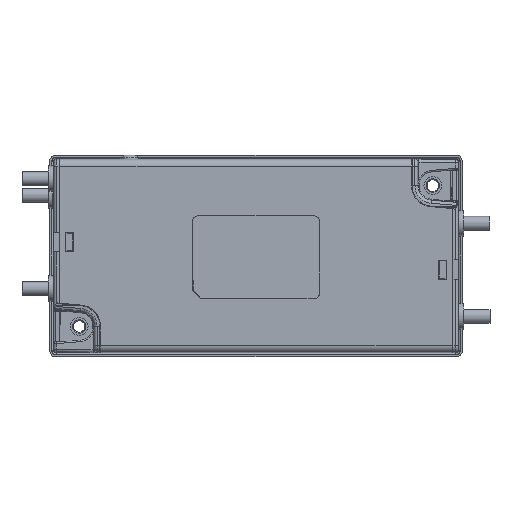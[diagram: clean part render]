
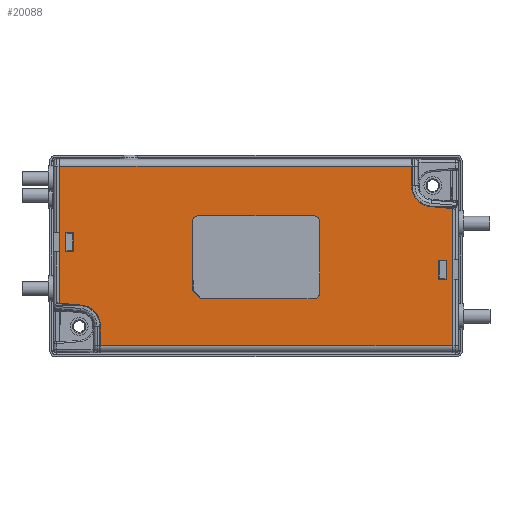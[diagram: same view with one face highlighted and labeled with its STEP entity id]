
A CAD part, top view. The second image highlights one B-rep face of the part: STEP entity #20088.
In plain terms, the highlighted planar face has unit normal (0, 0, 1).
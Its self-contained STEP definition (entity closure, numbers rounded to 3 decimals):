
#919=FACE_BOUND('',#5920,.T.);
#920=FACE_BOUND('',#5921,.T.);
#921=FACE_BOUND('',#5922,.T.);
#1001=LINE('',#29204,#2686);
#1005=LINE('',#29216,#2690);
#1009=LINE('',#29227,#2694);
#1013=LINE('',#29235,#2698);
#1016=LINE('',#29239,#2701);
#1017=LINE('',#29244,#2702);
#1018=LINE('',#29246,#2703);
#1019=LINE('',#29250,#2704);
#1020=LINE('',#29252,#2705);
#1021=LINE('',#29254,#2706);
#1022=LINE('',#29256,#2707);
#1023=LINE('',#29258,#2708);
#1024=LINE('',#29262,#2709);
#1025=LINE('',#29264,#2710);
#1026=LINE('',#29265,#2711);
#1027=LINE('',#29268,#2712);
#1028=LINE('',#29270,#2713);
#1029=LINE('',#29272,#2714);
#1030=LINE('',#29273,#2715);
#1031=LINE('',#29276,#2716);
#1032=LINE('',#29278,#2717);
#1033=LINE('',#29280,#2718);
#1034=LINE('',#29281,#2719);
#1035=LINE('',#29282,#2720);
#1036=LINE('',#29283,#2721);
#2686=VECTOR('',#23374,10.);
#2690=VECTOR('',#23386,10.);
#2694=VECTOR('',#23398,10.);
#2698=VECTOR('',#23404,10.);
#2701=VECTOR('',#23409,10.);
#2702=VECTOR('',#23414,10.);
#2703=VECTOR('',#23415,10.);
#2704=VECTOR('',#23418,10.);
#2705=VECTOR('',#23419,10.);
#2706=VECTOR('',#23420,10.);
#2707=VECTOR('',#23421,10.);
#2708=VECTOR('',#23422,10.);
#2709=VECTOR('',#23425,10.);
#2710=VECTOR('',#23426,10.);
#2711=VECTOR('',#23427,10.);
#2712=VECTOR('',#23428,10.);
#2713=VECTOR('',#23429,10.);
#2714=VECTOR('',#23430,10.);
#2715=VECTOR('',#23431,10.);
#2716=VECTOR('',#23432,10.);
#2717=VECTOR('',#23433,10.);
#2718=VECTOR('',#23434,10.);
#2719=VECTOR('',#23435,10.);
#2720=VECTOR('',#23436,10.);
#2721=VECTOR('',#23437,10.);
#4755=FACE_OUTER_BOUND('',#5919,.T.);
#5919=EDGE_LOOP('',(#12565,#12566,#12567,#12568,#12569,#12570,#12571,#12572,
#12573,#12574,#12575,#12576));
#5920=EDGE_LOOP('',(#12577,#12578,#12579,#12580));
#5921=EDGE_LOOP('',(#12581,#12582,#12583,#12584));
#5922=EDGE_LOOP('',(#12585,#12586,#12587,#12588,#12589,#12590,#12591,#12592,
#12593,#12594));
#7139=CIRCLE('',#21273,2.);
#7141=CIRCLE('',#21277,2.);
#7143=CIRCLE('',#21281,2.);
#7144=CIRCLE('',#21287,7.5);
#7145=CIRCLE('',#21288,7.5);
#7755=VERTEX_POINT('',#29181);
#7759=VERTEX_POINT('',#29188);
#7760=VERTEX_POINT('',#29190);
#7763=VERTEX_POINT('',#29197);
#7764=VERTEX_POINT('',#29199);
#7765=VERTEX_POINT('',#29203);
#7768=VERTEX_POINT('',#29211);
#7769=VERTEX_POINT('',#29215);
#7772=VERTEX_POINT('',#29223);
#7775=VERTEX_POINT('',#29234);
#7776=VERTEX_POINT('',#29242);
#7777=VERTEX_POINT('',#29243);
#7778=VERTEX_POINT('',#29245);
#7779=VERTEX_POINT('',#29247);
#7780=VERTEX_POINT('',#29249);
#7781=VERTEX_POINT('',#29251);
#7782=VERTEX_POINT('',#29253);
#7783=VERTEX_POINT('',#29255);
#7784=VERTEX_POINT('',#29257);
#7785=VERTEX_POINT('',#29259);
#7786=VERTEX_POINT('',#29261);
#7787=VERTEX_POINT('',#29263);
#7788=VERTEX_POINT('',#29266);
#7789=VERTEX_POINT('',#29267);
#7790=VERTEX_POINT('',#29269);
#7791=VERTEX_POINT('',#29271);
#7792=VERTEX_POINT('',#29274);
#7793=VERTEX_POINT('',#29275);
#7794=VERTEX_POINT('',#29277);
#7795=VERTEX_POINT('',#29279);
#9579=EDGE_CURVE('',#7764,#7763,#7139,.T.);
#9581=EDGE_CURVE('',#7765,#7764,#1001,.T.);
#9585=EDGE_CURVE('',#7768,#7765,#7141,.T.);
#9587=EDGE_CURVE('',#7769,#7768,#1005,.T.);
#9591=EDGE_CURVE('',#7772,#7769,#7143,.T.);
#9593=EDGE_CURVE('',#7755,#7772,#1009,.T.);
#9597=EDGE_CURVE('',#7775,#7759,#1013,.T.);
#9600=EDGE_CURVE('',#7763,#7775,#1016,.T.);
#9601=EDGE_CURVE('',#7776,#7777,#1017,.T.);
#9602=EDGE_CURVE('',#7776,#7778,#1018,.T.);
#9603=EDGE_CURVE('',#7778,#7779,#7144,.T.);
#9604=EDGE_CURVE('',#7779,#7780,#1019,.T.);
#9605=EDGE_CURVE('',#7780,#7781,#1020,.T.);
#9606=EDGE_CURVE('',#7782,#7781,#1021,.T.);
#9607=EDGE_CURVE('',#7783,#7782,#1022,.T.);
#9608=EDGE_CURVE('',#7783,#7784,#1023,.T.);
#9609=EDGE_CURVE('',#7784,#7785,#7145,.T.);
#9610=EDGE_CURVE('',#7785,#7786,#1024,.T.);
#9611=EDGE_CURVE('',#7786,#7787,#1025,.T.);
#9612=EDGE_CURVE('',#7777,#7787,#1026,.T.);
#9613=EDGE_CURVE('',#7788,#7789,#1027,.T.);
#9614=EDGE_CURVE('',#7789,#7790,#1028,.T.);
#9615=EDGE_CURVE('',#7790,#7791,#1029,.T.);
#9616=EDGE_CURVE('',#7791,#7788,#1030,.T.);
#9617=EDGE_CURVE('',#7792,#7793,#1031,.T.);
#9618=EDGE_CURVE('',#7793,#7794,#1032,.T.);
#9619=EDGE_CURVE('',#7794,#7795,#1033,.T.);
#9620=EDGE_CURVE('',#7795,#7792,#1034,.T.);
#9621=EDGE_CURVE('',#7759,#7760,#1035,.T.);
#9622=EDGE_CURVE('',#7760,#7755,#1036,.T.);
#12565=ORIENTED_EDGE('',*,*,#9601,.F.);
#12566=ORIENTED_EDGE('',*,*,#9602,.T.);
#12567=ORIENTED_EDGE('',*,*,#9603,.T.);
#12568=ORIENTED_EDGE('',*,*,#9604,.T.);
#12569=ORIENTED_EDGE('',*,*,#9605,.T.);
#12570=ORIENTED_EDGE('',*,*,#9606,.F.);
#12571=ORIENTED_EDGE('',*,*,#9607,.F.);
#12572=ORIENTED_EDGE('',*,*,#9608,.T.);
#12573=ORIENTED_EDGE('',*,*,#9609,.T.);
#12574=ORIENTED_EDGE('',*,*,#9610,.T.);
#12575=ORIENTED_EDGE('',*,*,#9611,.T.);
#12576=ORIENTED_EDGE('',*,*,#9612,.F.);
#12577=ORIENTED_EDGE('',*,*,#9613,.T.);
#12578=ORIENTED_EDGE('',*,*,#9614,.T.);
#12579=ORIENTED_EDGE('',*,*,#9615,.T.);
#12580=ORIENTED_EDGE('',*,*,#9616,.T.);
#12581=ORIENTED_EDGE('',*,*,#9617,.T.);
#12582=ORIENTED_EDGE('',*,*,#9618,.T.);
#12583=ORIENTED_EDGE('',*,*,#9619,.T.);
#12584=ORIENTED_EDGE('',*,*,#9620,.T.);
#12585=ORIENTED_EDGE('',*,*,#9593,.T.);
#12586=ORIENTED_EDGE('',*,*,#9591,.T.);
#12587=ORIENTED_EDGE('',*,*,#9587,.T.);
#12588=ORIENTED_EDGE('',*,*,#9585,.T.);
#12589=ORIENTED_EDGE('',*,*,#9581,.T.);
#12590=ORIENTED_EDGE('',*,*,#9579,.T.);
#12591=ORIENTED_EDGE('',*,*,#9600,.T.);
#12592=ORIENTED_EDGE('',*,*,#9597,.T.);
#12593=ORIENTED_EDGE('',*,*,#9621,.T.);
#12594=ORIENTED_EDGE('',*,*,#9622,.T.);
#18396=PLANE('',#21286);
#20088=ADVANCED_FACE('',(#4755,#919,#920,#921),#18396,.T.);
#21273=AXIS2_PLACEMENT_3D('',#29200,#23369,#23370);
#21277=AXIS2_PLACEMENT_3D('',#29212,#23381,#23382);
#21281=AXIS2_PLACEMENT_3D('',#29224,#23393,#23394);
#21286=AXIS2_PLACEMENT_3D('',#29241,#23412,#23413);
#21287=AXIS2_PLACEMENT_3D('',#29248,#23416,#23417);
#21288=AXIS2_PLACEMENT_3D('',#29260,#23423,#23424);
#23369=DIRECTION('center_axis',(0.,0.,-1.));
#23370=DIRECTION('ref_axis',(0.707,-0.707,0.));
#23374=DIRECTION('',(0.,-1.,0.));
#23381=DIRECTION('center_axis',(0.,0.,-1.));
#23382=DIRECTION('ref_axis',(0.707,0.707,0.));
#23386=DIRECTION('',(1.,0.,0.));
#23393=DIRECTION('center_axis',(0.,0.,-1.));
#23394=DIRECTION('ref_axis',(-0.707,0.707,0.));
#23398=DIRECTION('',(0.,1.,0.));
#23404=DIRECTION('',(-0.707,0.707,0.));
#23409=DIRECTION('',(-1.,0.,0.));
#23412=DIRECTION('center_axis',(0.,0.,1.));
#23413=DIRECTION('ref_axis',(0.,-1.,0.));
#23414=DIRECTION('',(-0.676,0.737,0.));
#23415=DIRECTION('',(0.996,-0.087,0.));
#23416=DIRECTION('center_axis',(0.,0.,-1.));
#23417=DIRECTION('ref_axis',(1.,0.,0.));
#23418=DIRECTION('',(0.,-1.,0.));
#23419=DIRECTION('',(1.,0.,0.));
#23420=DIRECTION('',(0.,-1.,0.));
#23421=DIRECTION('',(0.676,-0.737,0.));
#23422=DIRECTION('',(-0.996,0.087,0.));
#23423=DIRECTION('center_axis',(0.,0.,-1.));
#23424=DIRECTION('ref_axis',(-1.,0.,0.));
#23425=DIRECTION('',(0.,1.,0.));
#23426=DIRECTION('',(-1.,0.,0.));
#23427=DIRECTION('',(0.,1.,0.));
#23428=DIRECTION('',(1.,0.,0.));
#23429=DIRECTION('',(0.,-1.,0.));
#23430=DIRECTION('',(-1.,0.,0.));
#23431=DIRECTION('',(0.,1.,0.));
#23432=DIRECTION('',(-1.,0.,0.));
#23433=DIRECTION('',(0.,1.,0.));
#23434=DIRECTION('',(1.,0.,0.));
#23435=DIRECTION('',(0.,-1.,0.));
#23436=DIRECTION('',(-0.707,0.707,0.));
#23437=DIRECTION('',(0.,1.,0.));
#29181=CARTESIAN_POINT('',(-3.,-9.025,34.9));
#29188=CARTESIAN_POINT('',(-0.525,-15.,34.9));
#29190=CARTESIAN_POINT('',(-3.,-12.525,34.9));
#29197=CARTESIAN_POINT('',(41.,-15.525,34.9));
#29199=CARTESIAN_POINT('',(43.,-13.525,34.9));
#29200=CARTESIAN_POINT('Origin',(41.,-13.525,34.9));
#29203=CARTESIAN_POINT('',(43.,12.475,34.9));
#29204=CARTESIAN_POINT('',(43.,7.237,34.9));
#29211=CARTESIAN_POINT('',(41.,14.475,34.9));
#29212=CARTESIAN_POINT('Origin',(41.,12.475,34.9));
#29215=CARTESIAN_POINT('',(-1.,14.475,34.9));
#29216=CARTESIAN_POINT('',(8.5,14.475,34.9));
#29223=CARTESIAN_POINT('',(-3.,12.475,34.9));
#29224=CARTESIAN_POINT('Origin',(-1.,12.475,34.9));
#29227=CARTESIAN_POINT('',(-3.,-7.763,34.9));
#29234=CARTESIAN_POINT('',(0.,-15.525,34.9));
#29235=CARTESIAN_POINT('',(0.369,-15.894,34.9));
#29239=CARTESIAN_POINT('',(31.5,-15.525,34.9));
#29241=CARTESIAN_POINT('Origin',(20.,0.,34.9));
#29242=CARTESIAN_POINT('',(-50.502,-17.185,34.9));
#29243=CARTESIAN_POINT('',(-51.,-16.641,34.9));
#29244=CARTESIAN_POINT('',(-38.817,-29.937,34.9));
#29245=CARTESIAN_POINT('',(-43.146,-17.829,34.9));
#29246=CARTESIAN_POINT('',(-16.514,-20.159,34.9));
#29247=CARTESIAN_POINT('',(-36.3,-25.3,34.9));
#29248=CARTESIAN_POINT('Origin',(-43.8,-25.3,34.9));
#29249=CARTESIAN_POINT('',(-36.3,-32.5,34.9));
#29250=CARTESIAN_POINT('',(-36.3,-12.65,34.9));
#29251=CARTESIAN_POINT('',(91.,-32.5,34.9));
#29252=CARTESIAN_POINT('',(-15.5,-32.5,34.9));
#29253=CARTESIAN_POINT('',(91.,16.641,34.9));
#29254=CARTESIAN_POINT('',(91.,-35.,34.9));
#29255=CARTESIAN_POINT('',(90.502,17.185,34.9));
#29256=CARTESIAN_POINT('',(78.817,29.937,34.9));
#29257=CARTESIAN_POINT('',(83.146,17.829,34.9));
#29258=CARTESIAN_POINT('',(56.514,20.159,34.9));
#29259=CARTESIAN_POINT('',(76.3,25.3,34.9));
#29260=CARTESIAN_POINT('Origin',(83.8,25.3,34.9));
#29261=CARTESIAN_POINT('',(76.3,32.5,34.9));
#29262=CARTESIAN_POINT('',(76.3,12.65,34.9));
#29263=CARTESIAN_POINT('',(-51.,32.5,34.9));
#29264=CARTESIAN_POINT('',(55.5,32.5,34.9));
#29265=CARTESIAN_POINT('',(-51.,35.,34.9));
#29266=CARTESIAN_POINT('',(-49.,8.5,34.9));
#29267=CARTESIAN_POINT('',(-46.,8.5,34.9));
#29268=CARTESIAN_POINT('',(-14.5,8.5,34.9));
#29269=CARTESIAN_POINT('',(-46.,1.5,34.9));
#29270=CARTESIAN_POINT('',(-46.,2.5,34.9));
#29271=CARTESIAN_POINT('',(-49.,1.5,34.9));
#29272=CARTESIAN_POINT('',(-13.,1.5,34.9));
#29273=CARTESIAN_POINT('',(-49.,0.75,34.9));
#29274=CARTESIAN_POINT('',(89.,-8.5,34.9));
#29275=CARTESIAN_POINT('',(86.,-8.5,34.9));
#29276=CARTESIAN_POINT('',(54.5,-8.5,34.9));
#29277=CARTESIAN_POINT('',(86.,-1.5,34.9));
#29278=CARTESIAN_POINT('',(86.,-2.5,34.9));
#29279=CARTESIAN_POINT('',(89.,-1.5,34.9));
#29280=CARTESIAN_POINT('',(53.,-1.5,34.9));
#29281=CARTESIAN_POINT('',(89.,-0.75,34.9));
#29282=CARTESIAN_POINT('',(0.856,-16.381,34.9));
#29283=CARTESIAN_POINT('',(-3.,-6.263,34.9));
